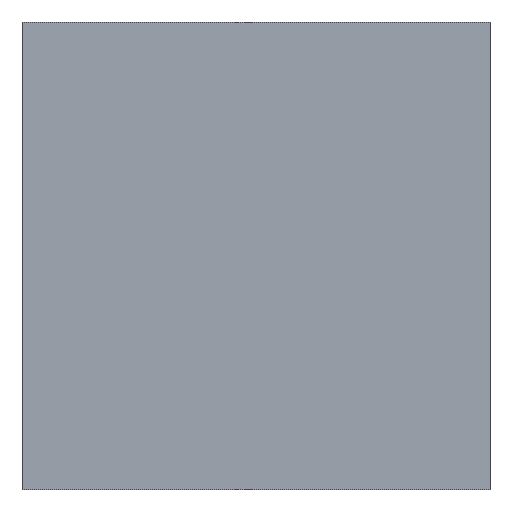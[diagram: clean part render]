
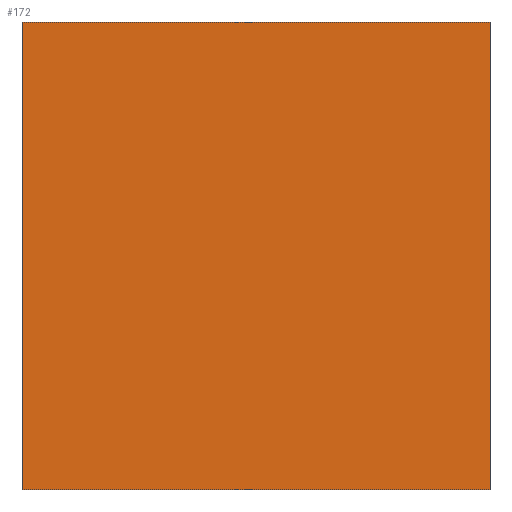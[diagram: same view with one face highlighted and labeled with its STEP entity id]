
A CAD part, top view. The second image highlights one B-rep face of the part: STEP entity #172.
In plain terms, the highlighted planar face has unit normal (0, 0, 1).
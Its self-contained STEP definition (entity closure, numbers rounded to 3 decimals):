
#5 = LINE ( 'NONE', #199, #177 ) ;
#11 = ORIENTED_EDGE ( 'NONE', *, *, #178, .T. ) ;
#26 = CARTESIAN_POINT ( 'NONE',  ( 203.2, -203.2, 0.05 ) ) ;
#36 = EDGE_LOOP ( 'NONE', ( #131, #109, #11, #211 ) ) ;
#39 = VERTEX_POINT ( 'NONE', #50 ) ;
#50 = CARTESIAN_POINT ( 'NONE',  ( -203.2, -203.2, 0.05 ) ) ;
#51 = VECTOR ( 'NONE', #122, 1000. ) ;
#53 = EDGE_CURVE ( 'NONE', #39, #179, #186, .T. ) ;
#67 = PLANE ( 'NONE',  #70 ) ;
#68 = EDGE_CURVE ( 'NONE', #181, #89, #84, .T. ) ;
#70 = AXIS2_PLACEMENT_3D ( 'NONE', #215, #139, #153 ) ;
#73 = EDGE_CURVE ( 'NONE', #89, #39, #169, .T. ) ;
#84 = LINE ( 'NONE', #106, #189 ) ;
#89 = VERTEX_POINT ( 'NONE', #105 ) ;
#105 = CARTESIAN_POINT ( 'NONE',  ( -203.2, 203.2, 0.05 ) ) ;
#106 = CARTESIAN_POINT ( 'NONE',  ( 203.2, 203.2, 0.05 ) ) ;
#109 = ORIENTED_EDGE ( 'NONE', *, *, #53, .T. ) ;
#122 = DIRECTION ( 'NONE',  ( 0., -1., 0. ) ) ;
#131 = ORIENTED_EDGE ( 'NONE', *, *, #73, .T. ) ;
#139 = DIRECTION ( 'NONE',  ( 0., 0., -1. ) ) ;
#153 = DIRECTION ( 'NONE',  ( -1., 0., 0. ) ) ;
#162 = FACE_OUTER_BOUND ( 'NONE', #36, .T. ) ;
#169 = LINE ( 'NONE', #208, #51 ) ;
#171 = DIRECTION ( 'NONE',  ( 1., 0., 0. ) ) ;
#172 = ADVANCED_FACE ( 'NONE', ( #162 ), #67, .F. ) ;
#177 = VECTOR ( 'NONE', #218, 1000. ) ;
#178 = EDGE_CURVE ( 'NONE', #179, #181, #5, .T. ) ;
#179 = VERTEX_POINT ( 'NONE', #221 ) ;
#181 = VERTEX_POINT ( 'NONE', #182 ) ;
#182 = CARTESIAN_POINT ( 'NONE',  ( 203.2, 203.2, 0.05 ) ) ;
#186 = LINE ( 'NONE', #26, #201 ) ;
#189 = VECTOR ( 'NONE', #191, 1000. ) ;
#191 = DIRECTION ( 'NONE',  ( -1., 0., 0. ) ) ;
#199 = CARTESIAN_POINT ( 'NONE',  ( 203.2, 203.2, 0.05 ) ) ;
#201 = VECTOR ( 'NONE', #171, 1000. ) ;
#208 = CARTESIAN_POINT ( 'NONE',  ( -203.2, 203.2, 0.05 ) ) ;
#211 = ORIENTED_EDGE ( 'NONE', *, *, #68, .T. ) ;
#215 = CARTESIAN_POINT ( 'NONE',  ( 0., 0., 0.05 ) ) ;
#218 = DIRECTION ( 'NONE',  ( 0., 1., 0. ) ) ;
#221 = CARTESIAN_POINT ( 'NONE',  ( 203.2, -203.2, 0.05 ) ) ;
